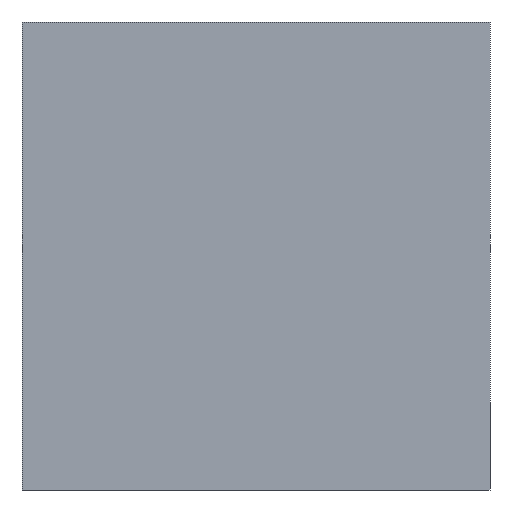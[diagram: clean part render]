
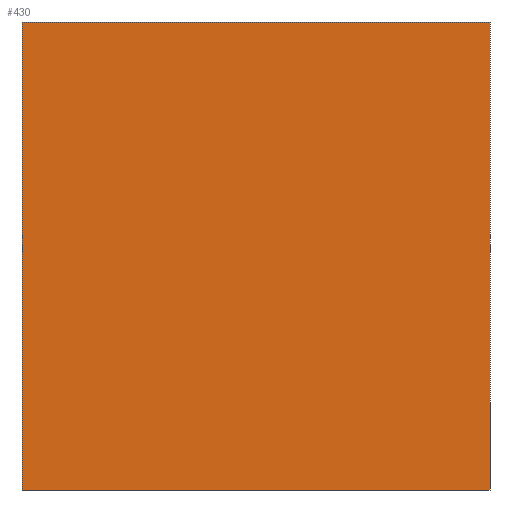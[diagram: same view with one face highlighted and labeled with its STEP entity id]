
A CAD part, left-side view. The second image highlights one B-rep face of the part: STEP entity #430.
In plain terms, the highlighted planar face has unit normal (-1, 0, 0).
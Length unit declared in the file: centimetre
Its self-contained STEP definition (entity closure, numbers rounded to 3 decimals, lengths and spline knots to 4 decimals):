
#14 = VERTEX_POINT ( 'NONE', #737 ) ;
#65 = DIRECTION ( 'NONE',  ( 0., 0., -1. ) ) ;
#70 = DIRECTION ( 'NONE',  ( 0., -1., 0. ) ) ;
#96 = LINE ( 'NONE', #330, #627 ) ;
#102 = DIRECTION ( 'NONE',  ( 0., 0., -1. ) ) ;
#161 = VERTEX_POINT ( 'NONE', #567 ) ;
#185 = LINE ( 'NONE', #304, #605 ) ;
#218 = CARTESIAN_POINT ( 'NONE',  ( 0., 1000., 0. ) ) ;
#244 = AXIS2_PLACEMENT_3D ( 'NONE', #725, #424, #65 ) ;
#252 = VECTOR ( 'NONE', #70, 100. ) ;
#255 = CARTESIAN_POINT ( 'NONE',  ( 0., 0., 0. ) ) ;
#256 = ORIENTED_EDGE ( 'NONE', *, *, #560, .T. ) ;
#288 = ORIENTED_EDGE ( 'NONE', *, *, #490, .F. ) ;
#304 = CARTESIAN_POINT ( 'NONE',  ( 0., 1000., 1000. ) ) ;
#330 = CARTESIAN_POINT ( 'NONE',  ( 0., 0., 1000. ) ) ;
#341 = EDGE_LOOP ( 'NONE', ( #256, #288, #583, #763 ) ) ;
#367 = FACE_OUTER_BOUND ( 'NONE', #341, .T. ) ;
#370 = LINE ( 'NONE', #551, #252 ) ;
#383 = VECTOR ( 'NONE', #695, 100. ) ;
#403 = VERTEX_POINT ( 'NONE', #255 ) ;
#421 = EDGE_CURVE ( 'NONE', #161, #14, #370, .T. ) ;
#424 = DIRECTION ( 'NONE',  ( 1., 0., 0. ) ) ;
#430 = ADVANCED_FACE ( 'NONE', ( #367 ), #723, .F. ) ;
#490 = EDGE_CURVE ( 'NONE', #14, #403, #96, .T. ) ;
#521 = LINE ( 'NONE', #218, #383 ) ;
#551 = CARTESIAN_POINT ( 'NONE',  ( 0., 1000., 1000. ) ) ;
#560 = EDGE_CURVE ( 'NONE', #624, #403, #521, .T. ) ;
#567 = CARTESIAN_POINT ( 'NONE',  ( 0., 1000., 1000. ) ) ;
#583 = ORIENTED_EDGE ( 'NONE', *, *, #421, .F. ) ;
#604 = DIRECTION ( 'NONE',  ( 0., 0., -1. ) ) ;
#605 = VECTOR ( 'NONE', #604, 100. ) ;
#624 = VERTEX_POINT ( 'NONE', #665 ) ;
#627 = VECTOR ( 'NONE', #102, 100. ) ;
#665 = CARTESIAN_POINT ( 'NONE',  ( 0., 1000., 0. ) ) ;
#680 = EDGE_CURVE ( 'NONE', #161, #624, #185, .T. ) ;
#695 = DIRECTION ( 'NONE',  ( 0., -1., 0. ) ) ;
#723 = PLANE ( 'NONE',  #244 ) ;
#725 = CARTESIAN_POINT ( 'NONE',  ( 0., 1000., 1000. ) ) ;
#737 = CARTESIAN_POINT ( 'NONE',  ( 0., 0., 1000. ) ) ;
#763 = ORIENTED_EDGE ( 'NONE', *, *, #680, .T. ) ;
